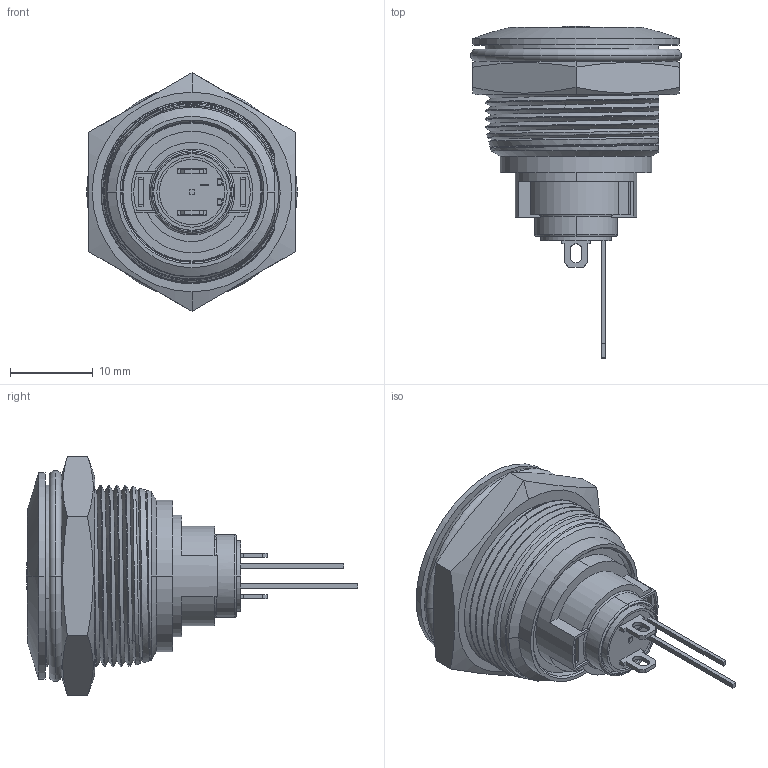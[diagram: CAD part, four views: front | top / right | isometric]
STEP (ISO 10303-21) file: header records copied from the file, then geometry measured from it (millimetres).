
FILE_DESCRIPTION((''),'2;1');
FILE_NAME('AV031L1EA200K','2013-10-18T',('jpetit'),(''),'PRO/ENGINEER BY PARAMETRIC TECHNOLOGY CORPORATION, 2012480','PRO/ENGINEER BY PARAMETRIC TECHNOLOGY CORPORATION, 2012480','');
FILE_SCHEMA(('CONFIG_CONTROL_DESIGN'));
Length unit declared in the file: millimetre
Products named in the file (1): AV031L1EA200K
Bounding box: 25.5 x 40.16 x 28.87 mm (x, y, z)
Volume: 5893.1 mm3; surface area: 8063.9 mm2
Topology: 2 solids, 2 shells, 779 faces, 2226 edges, 1419 vertices
Faces by surface type: plane 492, cylinder 176, bspline 44, cone 43, torus 20, sphere 4
Entity records: 36149 total; most frequent: CARTESIAN_POINT 15919, ORIENTED_EDGE 4448, DIRECTION 3936, EDGE_CURVE 2224, VECTOR 1494, LINE 1494, VERTEX_POINT 1419, AXIS2_PLACEMENT_3D 1221
